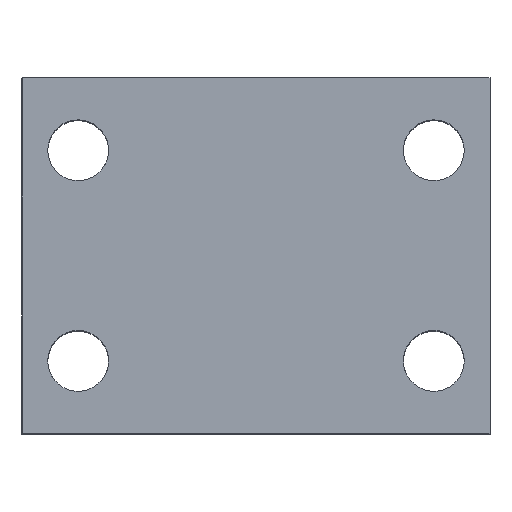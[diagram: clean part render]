
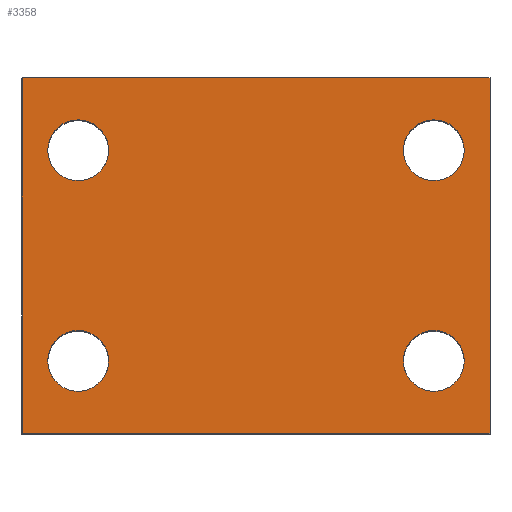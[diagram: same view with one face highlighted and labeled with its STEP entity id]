
A CAD part, top view. The second image highlights one B-rep face of the part: STEP entity #3358.
In plain terms, the highlighted planar face has unit normal (0, 0, 1).
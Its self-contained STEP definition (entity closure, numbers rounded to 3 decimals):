
#49 = DIRECTION ( 'NONE',  ( -1., 0., 0. ) ) ;
#171 = LINE ( 'NONE', #6963, #6514 ) ;
#235 = AXIS2_PLACEMENT_3D ( 'NONE', #11647, #12998, #4991 ) ;
#334 = DIRECTION ( 'NONE',  ( 0., 0., -1. ) ) ;
#597 = CIRCLE ( 'NONE', #1149, 6.5 ) ;
#1086 = EDGE_LOOP ( 'NONE', ( #3795, #1438, #14911, #13856 ) ) ;
#1149 = AXIS2_PLACEMENT_3D ( 'NONE', #2516, #11880, #3877 ) ;
#1170 = DIRECTION ( 'NONE',  ( 1., 0., 0. ) ) ;
#1438 = ORIENTED_EDGE ( 'NONE', *, *, #17278, .F. ) ;
#1500 = DIRECTION ( 'NONE',  ( 0., 0., -1. ) ) ;
#1565 = CARTESIAN_POINT ( 'NONE',  ( -38., 15.5, 47.5 ) ) ;
#1630 = ORIENTED_EDGE ( 'NONE', *, *, #14767, .T. ) ;
#1879 = AXIS2_PLACEMENT_3D ( 'NONE', #16235, #8114, #49 ) ;
#2116 = DIRECTION ( 'NONE',  ( 0., 0., -1. ) ) ;
#2149 = DIRECTION ( 'NONE',  ( 0., 0., -1. ) ) ;
#2273 = PLANE ( 'NONE',  #235 ) ;
#2516 = CARTESIAN_POINT ( 'NONE',  ( 38., 60.5, 47.5 ) ) ;
#2633 = AXIS2_PLACEMENT_3D ( 'NONE', #10144, #2116, #11481 ) ;
#2653 = LINE ( 'NONE', #9399, #16993 ) ;
#2729 = DIRECTION ( 'NONE',  ( 0., -1., 0. ) ) ;
#2862 = LINE ( 'NONE', #12457, #12711 ) ;
#2915 = AXIS2_PLACEMENT_3D ( 'NONE', #5313, #14694, #6643 ) ;
#2923 = DIRECTION ( 'NONE',  ( -1., 0., 0. ) ) ;
#3052 = ORIENTED_EDGE ( 'NONE', *, *, #3450, .T. ) ;
#3077 = DIRECTION ( 'NONE',  ( 0., -1., 0. ) ) ;
#3119 = VERTEX_POINT ( 'NONE', #13193 ) ;
#3281 = VERTEX_POINT ( 'NONE', #14088 ) ;
#3358 = ADVANCED_FACE ( 'NONE', ( #8575, #11753, #5494, #8186, #4638 ), #2273, .F. ) ;
#3450 = EDGE_CURVE ( 'NONE', #3119, #13836, #597, .T. ) ;
#3652 = EDGE_LOOP ( 'NONE', ( #15254, #1630 ) ) ;
#3662 = CARTESIAN_POINT ( 'NONE',  ( -50., 76., 47.5 ) ) ;
#3794 = CIRCLE ( 'NONE', #1879, 6.5 ) ;
#3795 = ORIENTED_EDGE ( 'NONE', *, *, #11768, .T. ) ;
#3877 = DIRECTION ( 'NONE',  ( -1., 0., 0. ) ) ;
#4234 = EDGE_CURVE ( 'NONE', #6380, #12728, #8175, .T. ) ;
#4259 = CIRCLE ( 'NONE', #17478, 6.5 ) ;
#4274 = CIRCLE ( 'NONE', #5156, 6.5 ) ;
#4638 = FACE_OUTER_BOUND ( 'NONE', #1086, .T. ) ;
#4651 = VERTEX_POINT ( 'NONE', #7220 ) ;
#4986 = CIRCLE ( 'NONE', #10987, 6.5 ) ;
#4991 = DIRECTION ( 'NONE',  ( -1., 0., 0. ) ) ;
#5156 = AXIS2_PLACEMENT_3D ( 'NONE', #8385, #334, #9741 ) ;
#5313 = CARTESIAN_POINT ( 'NONE',  ( 38., 15.5, 47.5 ) ) ;
#5494 = FACE_BOUND ( 'NONE', #3652, .T. ) ;
#6322 = ORIENTED_EDGE ( 'NONE', *, *, #16626, .T. ) ;
#6347 = VERTEX_POINT ( 'NONE', #12376 ) ;
#6380 = VERTEX_POINT ( 'NONE', #9735 ) ;
#6514 = VECTOR ( 'NONE', #10971, 1000. ) ;
#6614 = CARTESIAN_POINT ( 'NONE',  ( -31.5, 15.5, 47.5 ) ) ;
#6643 = DIRECTION ( 'NONE',  ( -1., 0., 0. ) ) ;
#6888 = VECTOR ( 'NONE', #1170, 1000. ) ;
#6963 = CARTESIAN_POINT ( 'NONE',  ( -50., 0., 47.5 ) ) ;
#6990 = VERTEX_POINT ( 'NONE', #14206 ) ;
#7104 = VERTEX_POINT ( 'NONE', #13063 ) ;
#7220 = CARTESIAN_POINT ( 'NONE',  ( 50., 0., 47.5 ) ) ;
#7284 = CIRCLE ( 'NONE', #16703, 6.5 ) ;
#7569 = VERTEX_POINT ( 'NONE', #10464 ) ;
#7799 = EDGE_CURVE ( 'NONE', #13836, #3119, #4274, .T. ) ;
#8114 = DIRECTION ( 'NONE',  ( 0., 0., -1. ) ) ;
#8175 = CIRCLE ( 'NONE', #2633, 6.5 ) ;
#8186 = FACE_BOUND ( 'NONE', #13827, .T. ) ;
#8385 = CARTESIAN_POINT ( 'NONE',  ( 38., 60.5, 47.5 ) ) ;
#8575 = FACE_BOUND ( 'NONE', #10582, .T. ) ;
#8705 = EDGE_CURVE ( 'NONE', #12728, #6380, #4259, .T. ) ;
#9399 = CARTESIAN_POINT ( 'NONE',  ( 50., 76., 47.5 ) ) ;
#9524 = CARTESIAN_POINT ( 'NONE',  ( -38., 60.5, 47.5 ) ) ;
#9735 = CARTESIAN_POINT ( 'NONE',  ( -44.5, 15.5, 47.5 ) ) ;
#9741 = DIRECTION ( 'NONE',  ( -1., 0., 0. ) ) ;
#10144 = CARTESIAN_POINT ( 'NONE',  ( -38., 15.5, 47.5 ) ) ;
#10169 = CARTESIAN_POINT ( 'NONE',  ( -38., 60.5, 47.5 ) ) ;
#10210 = CARTESIAN_POINT ( 'NONE',  ( -44.5, 60.5, 47.5 ) ) ;
#10464 = CARTESIAN_POINT ( 'NONE',  ( -50., 0., 47.5 ) ) ;
#10582 = EDGE_LOOP ( 'NONE', ( #13705, #6322 ) ) ;
#10633 = CIRCLE ( 'NONE', #2915, 6.5 ) ;
#10811 = ORIENTED_EDGE ( 'NONE', *, *, #4234, .T. ) ;
#10869 = DIRECTION ( 'NONE',  ( -1., 0., 0. ) ) ;
#10940 = DIRECTION ( 'NONE',  ( 0., 0., -1. ) ) ;
#10971 = DIRECTION ( 'NONE',  ( 1., 0., 0. ) ) ;
#10987 = AXIS2_PLACEMENT_3D ( 'NONE', #9524, #1500, #10869 ) ;
#11439 = ORIENTED_EDGE ( 'NONE', *, *, #7799, .T. ) ;
#11481 = DIRECTION ( 'NONE',  ( -1., 0., 0. ) ) ;
#11512 = DIRECTION ( 'NONE',  ( -1., 0., 0. ) ) ;
#11632 = EDGE_CURVE ( 'NONE', #6347, #14481, #3794, .T. ) ;
#11647 = CARTESIAN_POINT ( 'NONE',  ( -50., 76., 47.5 ) ) ;
#11753 = FACE_BOUND ( 'NONE', #13247, .T. ) ;
#11768 = EDGE_CURVE ( 'NONE', #7569, #4651, #171, .T. ) ;
#11819 = ORIENTED_EDGE ( 'NONE', *, *, #8705, .T. ) ;
#11880 = DIRECTION ( 'NONE',  ( 0., 0., -1. ) ) ;
#12376 = CARTESIAN_POINT ( 'NONE',  ( 31.5, 15.5, 47.5 ) ) ;
#12457 = CARTESIAN_POINT ( 'NONE',  ( -50., 76., 47.5 ) ) ;
#12711 = VECTOR ( 'NONE', #3077, 1000. ) ;
#12728 = VERTEX_POINT ( 'NONE', #6614 ) ;
#12998 = DIRECTION ( 'NONE',  ( 0., 0., -1. ) ) ;
#13063 = CARTESIAN_POINT ( 'NONE',  ( 50., 76., 47.5 ) ) ;
#13193 = CARTESIAN_POINT ( 'NONE',  ( 31.5, 60.5, 47.5 ) ) ;
#13247 = EDGE_LOOP ( 'NONE', ( #10811, #11819 ) ) ;
#13705 = ORIENTED_EDGE ( 'NONE', *, *, #15165, .T. ) ;
#13827 = EDGE_LOOP ( 'NONE', ( #3052, #11439 ) ) ;
#13836 = VERTEX_POINT ( 'NONE', #17429 ) ;
#13856 = ORIENTED_EDGE ( 'NONE', *, *, #16858, .T. ) ;
#14015 = LINE ( 'NONE', #3662, #6888 ) ;
#14088 = CARTESIAN_POINT ( 'NONE',  ( -50., 76., 47.5 ) ) ;
#14206 = CARTESIAN_POINT ( 'NONE',  ( -31.5, 60.5, 47.5 ) ) ;
#14262 = VERTEX_POINT ( 'NONE', #10210 ) ;
#14364 = EDGE_CURVE ( 'NONE', #3281, #7104, #14015, .T. ) ;
#14481 = VERTEX_POINT ( 'NONE', #14892 ) ;
#14694 = DIRECTION ( 'NONE',  ( 0., 0., -1. ) ) ;
#14767 = EDGE_CURVE ( 'NONE', #14481, #6347, #10633, .T. ) ;
#14892 = CARTESIAN_POINT ( 'NONE',  ( 44.5, 15.5, 47.5 ) ) ;
#14911 = ORIENTED_EDGE ( 'NONE', *, *, #14364, .F. ) ;
#15165 = EDGE_CURVE ( 'NONE', #14262, #6990, #4986, .T. ) ;
#15254 = ORIENTED_EDGE ( 'NONE', *, *, #11632, .T. ) ;
#16235 = CARTESIAN_POINT ( 'NONE',  ( 38., 15.5, 47.5 ) ) ;
#16626 = EDGE_CURVE ( 'NONE', #6990, #14262, #7284, .T. ) ;
#16703 = AXIS2_PLACEMENT_3D ( 'NONE', #10169, #2149, #11512 ) ;
#16858 = EDGE_CURVE ( 'NONE', #3281, #7569, #2862, .T. ) ;
#16993 = VECTOR ( 'NONE', #2729, 1000. ) ;
#17278 = EDGE_CURVE ( 'NONE', #7104, #4651, #2653, .T. ) ;
#17429 = CARTESIAN_POINT ( 'NONE',  ( 44.5, 60.5, 47.5 ) ) ;
#17478 = AXIS2_PLACEMENT_3D ( 'NONE', #1565, #10940, #2923 ) ;
